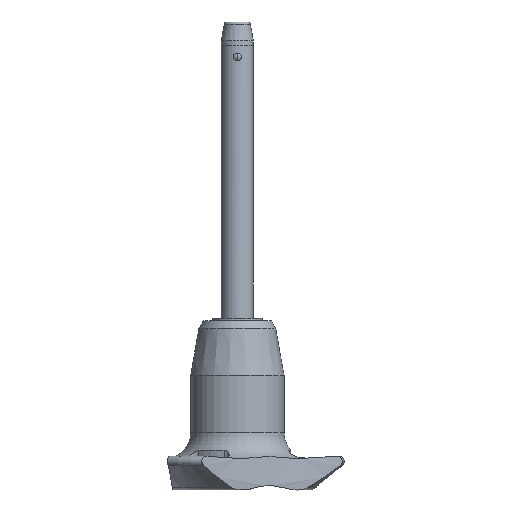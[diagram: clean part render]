
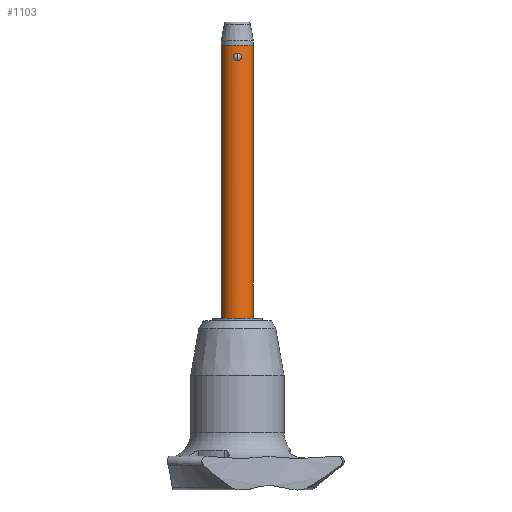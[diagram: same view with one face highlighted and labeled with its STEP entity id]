
A CAD part, front view. The second image highlights one B-rep face of the part: STEP entity #1103.
In plain terms, the highlighted cylindrical face has radius 2.5 mm (diameter 5 mm), a partial arc.
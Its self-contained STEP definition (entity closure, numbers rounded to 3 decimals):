
#3 = CARTESIAN_POINT ( 'NONE',  ( 0.652, -2.414, 0.497 ) ) ;
#5 = CARTESIAN_POINT ( 'NONE',  ( -0.162, -2.5, 0. ) ) ;
#19 = CARTESIAN_POINT ( 'NONE',  ( -0.51, -2.448, 0.953 ) ) ;
#27 = AXIS2_PLACEMENT_3D ( 'NONE', #1832, #1004, #1205 ) ;
#85 = EDGE_CURVE ( 'NONE', #1175, #142, #347, .T. ) ;
#123 = DIRECTION ( 'NONE',  ( 1., 0., 0. ) ) ;
#129 = DIRECTION ( 'NONE',  ( 0., 0., 1. ) ) ;
#135 = CYLINDRICAL_SURFACE ( 'NONE', #2409, 2.5 ) ;
#142 = VERTEX_POINT ( 'NONE', #585 ) ;
#210 = CARTESIAN_POINT ( 'NONE',  ( 2.5, 0., -40. ) ) ;
#223 = CARTESIAN_POINT ( 'NONE',  ( -0.632, -2.419, 0.744 ) ) ;
#297 = EDGE_CURVE ( 'NONE', #1938, #1045, #1009, .T. ) ;
#347 = LINE ( 'NONE', #569, #1140 ) ;
#407 = CARTESIAN_POINT ( 'NONE',  ( -0.326, -2.482, 0.054 ) ) ;
#418 = CARTESIAN_POINT ( 'NONE',  ( 0.509, -2.448, 0.208 ) ) ;
#463 = ORIENTED_EDGE ( 'NONE', *, *, #85, .T. ) ;
#517 = B_SPLINE_CURVE_WITH_KNOTS ( 'NONE', 3,
 ( #647, #1277, #1079, #418, #2750, #1923, #3, #867, #1724, #840, #2767, #1500, #1516, #2578 ),
 .UNSPECIFIED., .F., .F.,
 ( 4, 2, 2, 2, 2, 2, 4 ),
 ( 0.002, 0.002, 0.003, 0.003, 0.003, 0.003, 0.004 ),
 .UNSPECIFIED. ) ;
#569 = CARTESIAN_POINT ( 'NONE',  ( 2.5, 0., -40. ) ) ;
#585 = CARTESIAN_POINT ( 'NONE',  ( 2.5, 0., 2.4 ) ) ;
#591 = EDGE_CURVE ( 'NONE', #1045, #1938, #517, .T. ) ;
#628 = CARTESIAN_POINT ( 'NONE',  ( -2.5, 0., 2.4 ) ) ;
#647 = CARTESIAN_POINT ( 'NONE',  ( 0., -2.5, 0. ) ) ;
#763 = ORIENTED_EDGE ( 'NONE', *, *, #1673, .F. ) ;
#769 = DIRECTION ( 'NONE',  ( 0., 0., -1. ) ) ;
#779 = FACE_OUTER_BOUND ( 'NONE', #1129, .T. ) ;
#840 = CARTESIAN_POINT ( 'NONE',  ( 0.562, -2.436, 0.887 ) ) ;
#867 = CARTESIAN_POINT ( 'NONE',  ( 0.652, -2.413, 0.66 ) ) ;
#885 = AXIS2_PLACEMENT_3D ( 'NONE', #2292, #769, #123 ) ;
#894 = EDGE_CURVE ( 'NONE', #2565, #142, #1915, .T. ) ;
#954 = LINE ( 'NONE', #1201, #1470 ) ;
#992 = ORIENTED_EDGE ( 'NONE', *, *, #297, .F. ) ;
#1004 = DIRECTION ( 'NONE',  ( 0., 0., 1. ) ) ;
#1009 = B_SPLINE_CURVE_WITH_KNOTS ( 'NONE', 3,
 ( #1051, #1906, #2753, #19, #1518, #223, #1081, #1942, #2537, #2210, #1478, #407, #5, #2121 ),
 .UNSPECIFIED., .F., .F.,
 ( 4, 2, 2, 2, 2, 2, 4 ),
 ( 0., 0., 0.001, 0.001, 0.001, 0.001, 0.002 ),
 .UNSPECIFIED. ) ;
#1045 = VERTEX_POINT ( 'NONE', #1671 ) ;
#1051 = CARTESIAN_POINT ( 'NONE',  ( 0., -2.5, 1.162 ) ) ;
#1079 = CARTESIAN_POINT ( 'NONE',  ( 0.326, -2.482, 0.055 ) ) ;
#1081 = CARTESIAN_POINT ( 'NONE',  ( -0.652, -2.414, 0.663 ) ) ;
#1103 = ADVANCED_FACE ( 'NONE', ( #779, #1894 ), #135, .T. ) ;
#1129 = EDGE_LOOP ( 'NONE', ( #1903, #763, #463, #1870 ) ) ;
#1140 = VECTOR ( 'NONE', #2693, 1000. ) ;
#1175 = VERTEX_POINT ( 'NONE', #210 ) ;
#1181 = CARTESIAN_POINT ( 'NONE',  ( 0., -2.5, 1.162 ) ) ;
#1201 = CARTESIAN_POINT ( 'NONE',  ( -2.5, 0., -40. ) ) ;
#1205 = DIRECTION ( 'NONE',  ( 1., 0., 0. ) ) ;
#1236 = CARTESIAN_POINT ( 'NONE',  ( 0., 0., -40. ) ) ;
#1277 = CARTESIAN_POINT ( 'NONE',  ( 0.162, -2.5, 0. ) ) ;
#1422 = EDGE_CURVE ( 'NONE', #2509, #2565, #954, .T. ) ;
#1470 = VECTOR ( 'NONE', #129, 1000. ) ;
#1478 = CARTESIAN_POINT ( 'NONE',  ( -0.511, -2.448, 0.21 ) ) ;
#1500 = CARTESIAN_POINT ( 'NONE',  ( 0.327, -2.482, 1.107 ) ) ;
#1516 = CARTESIAN_POINT ( 'NONE',  ( 0.164, -2.5, 1.162 ) ) ;
#1518 = CARTESIAN_POINT ( 'NONE',  ( -0.561, -2.436, 0.889 ) ) ;
#1602 = ORIENTED_EDGE ( 'NONE', *, *, #591, .F. ) ;
#1638 = DIRECTION ( 'NONE',  ( 1., 0., 0. ) ) ;
#1671 = CARTESIAN_POINT ( 'NONE',  ( 0., -2.5, 0. ) ) ;
#1673 = EDGE_CURVE ( 'NONE', #1175, #2509, #2450, .T. ) ;
#1724 = CARTESIAN_POINT ( 'NONE',  ( 0.633, -2.419, 0.742 ) ) ;
#1832 = CARTESIAN_POINT ( 'NONE',  ( 0., 0., 2.4 ) ) ;
#1844 = DIRECTION ( 'NONE',  ( 0., 0., 1. ) ) ;
#1870 = ORIENTED_EDGE ( 'NONE', *, *, #894, .F. ) ;
#1894 = FACE_BOUND ( 'NONE', #1953, .T. ) ;
#1903 = ORIENTED_EDGE ( 'NONE', *, *, #1422, .F. ) ;
#1906 = CARTESIAN_POINT ( 'NONE',  ( -0.164, -2.5, 1.162 ) ) ;
#1915 = CIRCLE ( 'NONE', #27, 2.5 ) ;
#1923 = CARTESIAN_POINT ( 'NONE',  ( 0.632, -2.419, 0.416 ) ) ;
#1938 = VERTEX_POINT ( 'NONE', #1181 ) ;
#1942 = CARTESIAN_POINT ( 'NONE',  ( -0.652, -2.413, 0.501 ) ) ;
#1953 = EDGE_LOOP ( 'NONE', ( #992, #1602 ) ) ;
#2051 = CARTESIAN_POINT ( 'NONE',  ( -2.5, 0., -40. ) ) ;
#2121 = CARTESIAN_POINT ( 'NONE',  ( 0., -2.5, 0. ) ) ;
#2210 = CARTESIAN_POINT ( 'NONE',  ( -0.562, -2.436, 0.274 ) ) ;
#2292 = CARTESIAN_POINT ( 'NONE',  ( 0., 0., -40. ) ) ;
#2409 = AXIS2_PLACEMENT_3D ( 'NONE', #1236, #1844, #1638 ) ;
#2450 = CIRCLE ( 'NONE', #885, 2.5 ) ;
#2509 = VERTEX_POINT ( 'NONE', #2051 ) ;
#2537 = CARTESIAN_POINT ( 'NONE',  ( -0.633, -2.419, 0.42 ) ) ;
#2565 = VERTEX_POINT ( 'NONE', #628 ) ;
#2578 = CARTESIAN_POINT ( 'NONE',  ( 0., -2.5, 1.162 ) ) ;
#2693 = DIRECTION ( 'NONE',  ( 0., 0., 1. ) ) ;
#2750 = CARTESIAN_POINT ( 'NONE',  ( 0.561, -2.437, 0.273 ) ) ;
#2753 = CARTESIAN_POINT ( 'NONE',  ( -0.324, -2.482, 1.108 ) ) ;
#2767 = CARTESIAN_POINT ( 'NONE',  ( 0.511, -2.448, 0.952 ) ) ;
